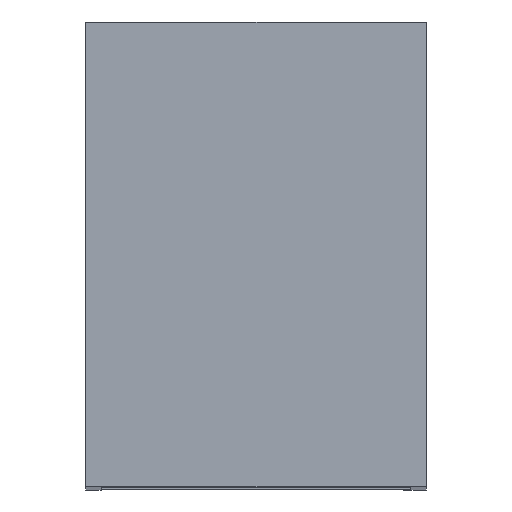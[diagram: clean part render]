
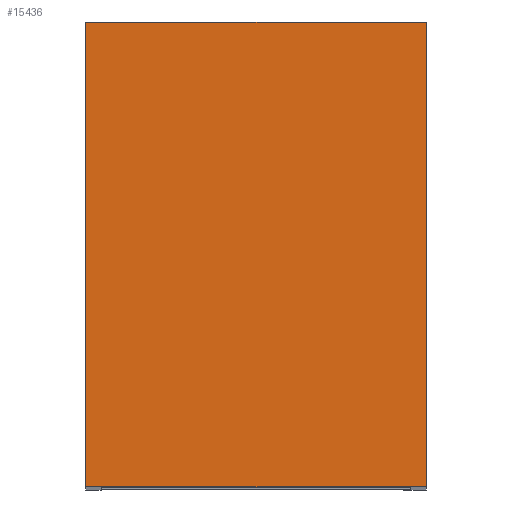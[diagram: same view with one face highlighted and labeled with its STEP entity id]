
A CAD part, top view. The second image highlights one B-rep face of the part: STEP entity #15436.
In plain terms, the highlighted planar face has unit normal (0, 0, 1).
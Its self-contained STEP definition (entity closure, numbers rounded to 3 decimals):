
#1145=FACE_OUTER_BOUND('',#2028,.T.);
#2028=EDGE_LOOP('',(#10449,#10450,#10451,#10452));
#3098=LINE('',#21062,#4720);
#3102=LINE('',#21071,#4724);
#3106=LINE('',#21078,#4728);
#3113=LINE('',#21091,#4735);
#4720=VECTOR('',#17557,304.8);
#4724=VECTOR('',#17563,304.8);
#4728=VECTOR('',#17569,304.8);
#4735=VECTOR('',#17580,304.8);
#6339=VERTEX_POINT('',#21060);
#6340=VERTEX_POINT('',#21061);
#6343=VERTEX_POINT('',#21069);
#6344=VERTEX_POINT('',#21070);
#7915=EDGE_CURVE('',#6339,#6340,#3098,.T.);
#7919=EDGE_CURVE('',#6343,#6344,#3102,.T.);
#7923=EDGE_CURVE('',#6340,#6343,#3106,.T.);
#7930=EDGE_CURVE('',#6339,#6344,#3113,.T.);
#10449=ORIENTED_EDGE('',*,*,#7923,.T.);
#10450=ORIENTED_EDGE('',*,*,#7919,.T.);
#10451=ORIENTED_EDGE('',*,*,#7930,.F.);
#10452=ORIENTED_EDGE('',*,*,#7915,.T.);
#14891=PLANE('',#16377);
#15436=ADVANCED_FACE('',(#1145),#14891,.T.);
#16377=AXIS2_PLACEMENT_3D('',#21090,#17578,#17579);
#17557=DIRECTION('',(0.,1.,0.));
#17563=DIRECTION('',(0.,-1.,0.));
#17569=DIRECTION('',(-1.,0.,0.));
#17578=DIRECTION('center_axis',(0.,0.,1.));
#17579=DIRECTION('ref_axis',(-1.,0.,0.));
#17580=DIRECTION('',(-1.,0.,0.));
#21060=CARTESIAN_POINT('',(33.,0.,349.957));
#21061=CARTESIAN_POINT('',(33.,90.,349.957));
#21062=CARTESIAN_POINT('',(33.,0.,349.957));
#21069=CARTESIAN_POINT('',(-33.,90.,349.957));
#21070=CARTESIAN_POINT('',(-33.,0.,349.957));
#21071=CARTESIAN_POINT('',(-33.,90.,349.957));
#21078=CARTESIAN_POINT('',(33.,90.,349.957));
#21090=CARTESIAN_POINT('Origin',(-33.,90.,349.957));
#21091=CARTESIAN_POINT('',(33.,0.,349.957));
